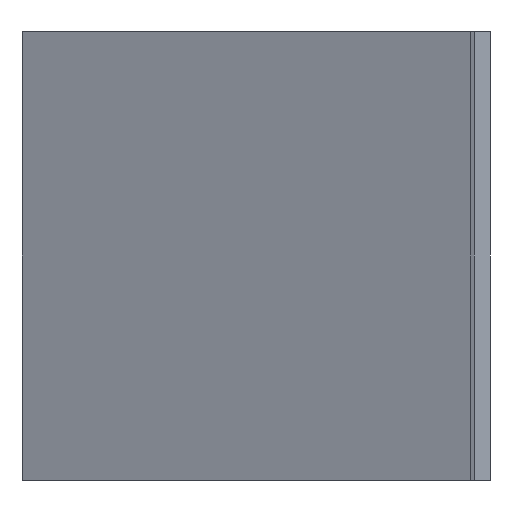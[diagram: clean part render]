
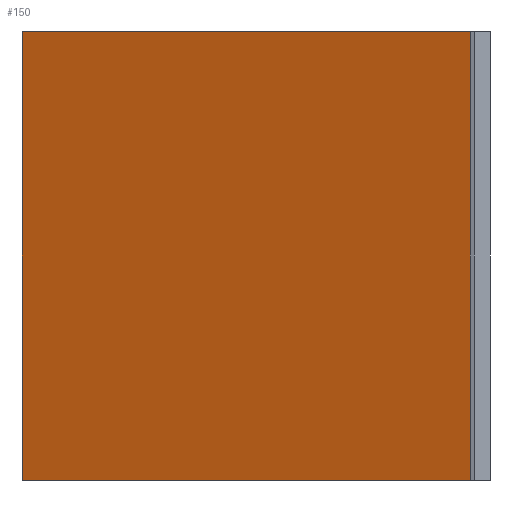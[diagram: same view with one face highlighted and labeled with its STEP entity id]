
A CAD part, left-side view. The second image highlights one B-rep face of the part: STEP entity #150.
In plain terms, the highlighted planar face has unit normal (0.923, -0.384, 0).
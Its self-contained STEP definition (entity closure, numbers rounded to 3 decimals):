
#98=CARTESIAN_POINT('Vertex',(20.,0.,0.)) ;
#101=CARTESIAN_POINT('Line Origine',(20.,0.,56.5)) ;
#105=CARTESIAN_POINT('Vertex',(20.,0.,113.)) ;
#120=CARTESIAN_POINT('Axis2P3D Location',(20.,0.,0.)) ;
#125=CARTESIAN_POINT('Line Origine',(43.5,56.5,0.)) ;
#129=CARTESIAN_POINT('Vertex',(67.,113.,0.)) ;
#132=CARTESIAN_POINT('Line Origine',(67.,113.,56.5)) ;
#136=CARTESIAN_POINT('Vertex',(67.,113.,113.)) ;
#139=CARTESIAN_POINT('Line Origine',(43.5,56.5,113.)) ;
#102=DIRECTION('Vector Direction',(0.,0.,1.)) ;
#121=DIRECTION('Axis2P3D Direction',(0.923,-0.384,0.)) ;
#122=DIRECTION('Axis2P3D XDirection',(0.384,0.923,0.)) ;
#126=DIRECTION('Vector Direction',(0.384,0.923,0.)) ;
#133=DIRECTION('Vector Direction',(0.,0.,1.)) ;
#140=DIRECTION('Vector Direction',(0.384,0.923,0.)) ;
#123=AXIS2_PLACEMENT_3D('Plane Axis2P3D',#120,#121,#122) ;
#145=ORIENTED_EDGE('',*,*,#107,.F.) ;
#146=ORIENTED_EDGE('',*,*,#131,.T.) ;
#147=ORIENTED_EDGE('',*,*,#138,.T.) ;
#148=ORIENTED_EDGE('',*,*,#143,.F.) ;
#103=VECTOR('Line Direction',#102,1.) ;
#127=VECTOR('Line Direction',#126,1.) ;
#134=VECTOR('Line Direction',#133,1.) ;
#141=VECTOR('Line Direction',#140,1.) ;
#150=ADVANCED_FACE('Extrude.1',(#149),#124,.T.) ;
#107=EDGE_CURVE('',#99,#106,#104,.T.) ;
#131=EDGE_CURVE('',#99,#130,#128,.T.) ;
#138=EDGE_CURVE('',#130,#137,#135,.T.) ;
#143=EDGE_CURVE('',#106,#137,#142,.T.) ;
#144=EDGE_LOOP('',(#145,#146,#147,#148)) ;
#149=FACE_OUTER_BOUND('',#144,.T.) ;
#104=LINE('Line',#101,#103) ;
#128=LINE('Line',#125,#127) ;
#135=LINE('Line',#132,#134) ;
#142=LINE('Line',#139,#141) ;
#124=PLANE('',#123) ;
#99=VERTEX_POINT('',#98) ;
#106=VERTEX_POINT('',#105) ;
#130=VERTEX_POINT('',#129) ;
#137=VERTEX_POINT('',#136) ;
